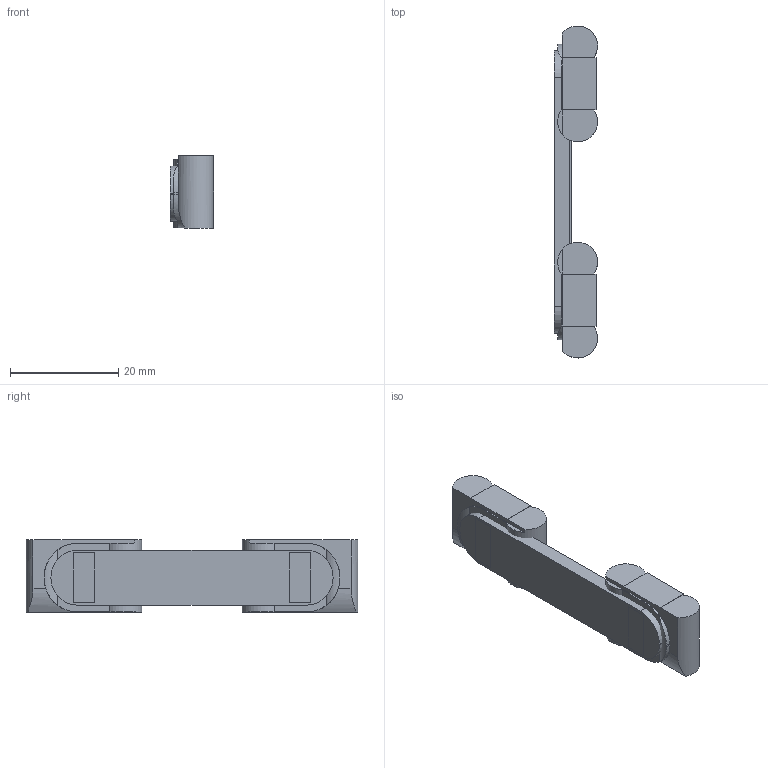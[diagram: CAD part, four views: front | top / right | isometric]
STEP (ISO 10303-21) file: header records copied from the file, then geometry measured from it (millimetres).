
FILE_DESCRIPTION(('Open CASCADE Model'),'2;1');
FILE_NAME('Open CASCADE Shape Model','2026-09-15T13:41:18',('Author'),( 'Open CASCADE'),'Open CASCADE STEP processor 7.7','Open CASCADE 7.7' ,'Unknown');
FILE_SCHEMA(('AUTOMOTIVE_DESIGN { 1 0 10303 214 1 1 1 1 }'));
Length unit declared in the file: millimetre
Products named in the file (4): ASSEMBLY; SOLID
Assembly tree (3 placements, depth 2):
  ASSEMBLY
    SOLID
    SOLID
    SOLID
Bounding box: 8 x 61.4 x 13.4 mm (x, y, z)
Volume: 5142.2 mm3; surface area: 3403.2 mm2
Topology: 3 solids, 3 shells, 62 faces, 162 edges, 108 vertices
Faces by surface type: plane 46, cylinder 16
Entity records: 4488 total; most frequent: CARTESIAN_POINT 1428, DIRECTION 484, ORIENTED_EDGE 324, PCURVE 324, DEFINITIONAL_REPRESENTATION 324, LINE 276, VECTOR 276, EDGE_CURVE 162
